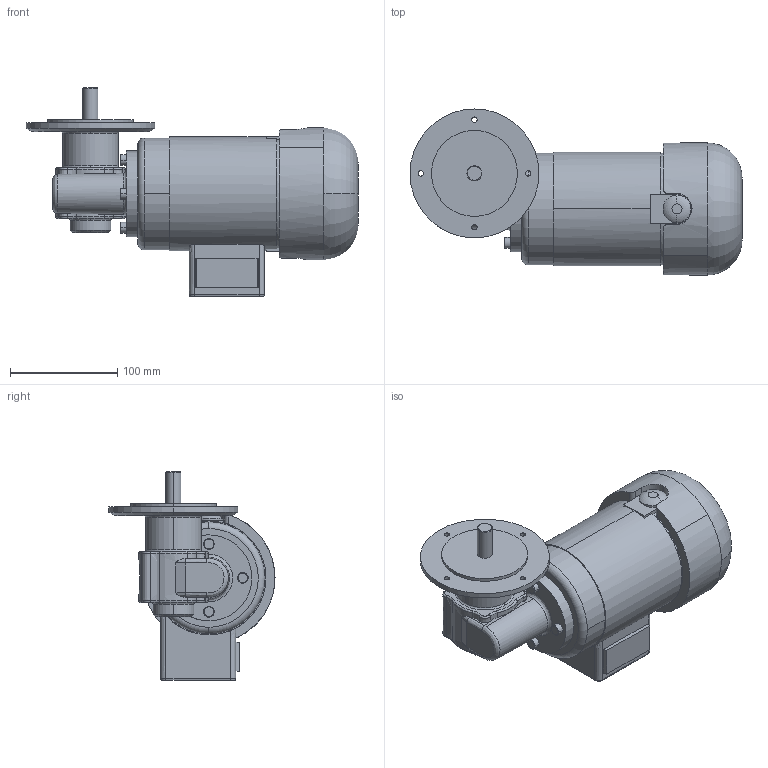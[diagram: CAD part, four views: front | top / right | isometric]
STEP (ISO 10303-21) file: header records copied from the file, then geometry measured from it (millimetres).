
FILE_DESCRIPTION(('OneSpaceDesigner STEP Export'),'2;1');
FILE_NAME('KGOG61-62_GF130_E.stp','2008-08-18T 9:21:39',(''),(''),'OneSpace Designer STEP processor (Jan. 2003) for AP214(CD)(Solid Model)','OneSpace Designer 12.01D 09-Jul-2004 (C) CoCreate Software GmbH','');
FILE_SCHEMA(('AUTOMOTIVE_DESIGN_CC2 {1 2 10303 214 -1 1 5 1}'));
Length unit declared in the file: millimetre
Products named in the file (2): KGOG61-62_GF130_E
Assembly tree (1 placements, depth 2):
  KGOG61-62_GF130_E
    KGOG61-62_GF130_E
Bounding box: 309 x 154.5 x 194.5 mm (x, y, z)
Volume: 2649941.8 mm3; surface area: 155784.8 mm2
Topology: 1 solids, 1 shells, 206 faces, 523 edges, 332 vertices
Faces by surface type: plane 52, cylinder 52, bspline 47, extrusion 29, torus 14, cone 12
Entity records: 17885 total; most frequent: CARTESIAN_POINT 13817, ORIENTED_EDGE 1046, EDGE_CURVE 523, DIRECTION 502, VERTEX_POINT 332, EDGE_LOOP 227, FACE_OUTER_BOUND 206, ADVANCED_FACE 206
